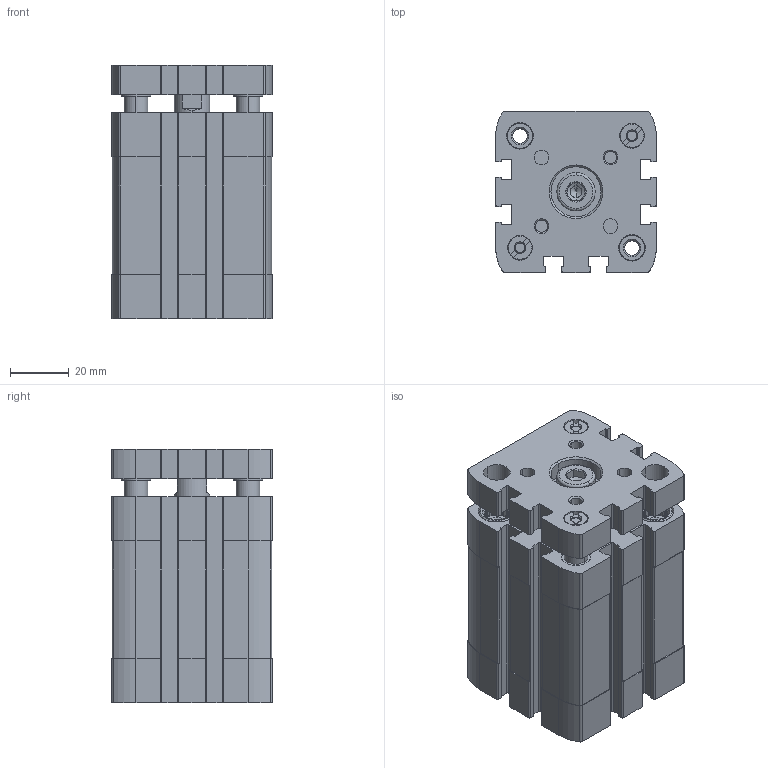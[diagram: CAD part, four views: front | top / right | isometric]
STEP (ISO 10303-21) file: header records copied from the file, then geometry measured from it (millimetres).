
FILE_DESCRIPTION (( 'STEP AP203' ), '1' );
FILE_NAME ('CCNG40-25.STEP', '2018-09-11T14:20:54', ( '' ), ( '' ), 'SwSTEP 2.0', 'SolidWorks 2018', '' );
FILE_SCHEMA (( 'CONFIG_CONTROL_DESIGN' ));
Length unit declared in the file: millimetre
Products named in the file (1): CCNG40-25
Bounding box: 54.5 x 54.5 x 86.1 mm (x, y, z)
Volume: 178038.1 mm3; surface area: 60003 mm2
Topology: 2 solids, 4 shells, 719 faces, 1928 edges, 1259 vertices
Faces by surface type: plane 363, cylinder 274, cone 72, torus 10
Entity records: 23003 total; most frequent: CARTESIAN_POINT 4443, DIRECTION 3988, ORIENTED_EDGE 3852, EDGE_CURVE 1926, AXIS2_PLACEMENT_3D 1474, VERTEX_POINT 1259, VECTOR 1040, LINE 1040
